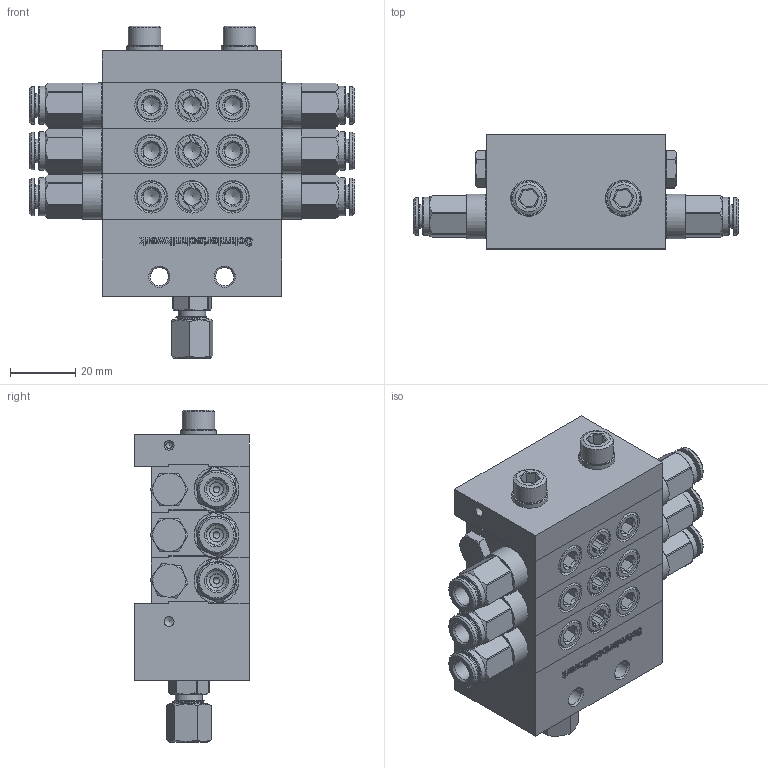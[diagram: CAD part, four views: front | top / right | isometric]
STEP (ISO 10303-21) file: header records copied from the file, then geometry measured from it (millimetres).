
FILE_DESCRIPTION (( 'STEP AP214' ), '1' );
FILE_NAME ('STW_XV_0143_06_0502_06_Auslässe.STEP', '2026-02-04T10:57:05', ( '' ), ( '' ), 'SwSTEP 2.0', 'SolidWorks 2022', '' );
FILE_SCHEMA (( 'AUTOMOTIVE_DESIGN' ));
Length unit declared in the file: millimetre
Products named in the file (17): 991214010601; OR 7.66X1.78_1; 991214010601_Mutter; H200139_HDS01_6_M10X1_08.05.17; STW_XV_END; RIVOLUZIONE_0_2; 991214010601_Koerper; STW_XV_0143_06_0502_06_Auslässe; U_Scheibe_6; Verschlussstopfen_1_8_2; 991214010601_Schneidring; STW_XV_ENGANG; M6X65_DIN_912; STW_XV_Verbindungsstopen; DR6-C_HDX_25.07.16_1; STW_XV_MITTEL_1; STW_XV_Kolbenanschlag
Assembly tree (37 placements, depth 3):
  STW_XV_0143_06_0502_06_Auslässe
    STW_XV_ENGANG
    STW_XV_MITTEL_1  x3
    STW_XV_END
    Verschlussstopfen_1_8_2  x6
    STW_XV_Kolbenanschlag  x6
    STW_XV_Verbindungsstopen  x3
    M6X65_DIN_912  x2
    U_Scheibe_6  x2
    991214010601
      991214010601_Koerper
      991214010601_Schneidring
      991214010601_Mutter
    H200139_HDS01_6_M10X1_08.05.17  x6
      OR 7.66X1.78_1
      DR6-C_HDX_25.07.16_1
      RIVOLUZIONE_0_2
Bounding box: 99.6 x 35 x 101.68 mm (x, y, z)
Volume: 139878.5 mm3; surface area: 74759 mm2
Topology: 45 solids, 45 shells, 1587 faces, 4101 edges, 2646 vertices
Faces by surface type: plane 786, cylinder 369, cone 282, bspline 144, torus 6
Full cylindrical faces by diameter (mm): 2 x89, 3 x10, 4.2 x6, 4.5 x1, 5 x38, 5.5 x2, 5.9 x2, 6 x3, 6.2 x15, 6.3 x6, 6.4 x2, 6.5 x6, 7 x6, 7.2 x6, 7.4 x1, 7.67 x1, 8 x7, 8.3 x1, 8.4 x3, 8.5 x6, 8.6 x15, 9 x8, 9.7 x6, 9.73 x3, 9.8 x7, 9.9 x6, 10 x20, 10.3 x6, 11 x2, 11.5 x6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
Entity records: 44711 total; most frequent: CARTESIAN_POINT 22285, ORIENTED_EDGE 2994, DIRECTION 2597, EDGE_CURVE 1497, VERTEX_POINT 1072, EDGE_LOOP 1011, AXIS2_PLACEMENT_3D 925, FACE_OUTER_BOUND 812
